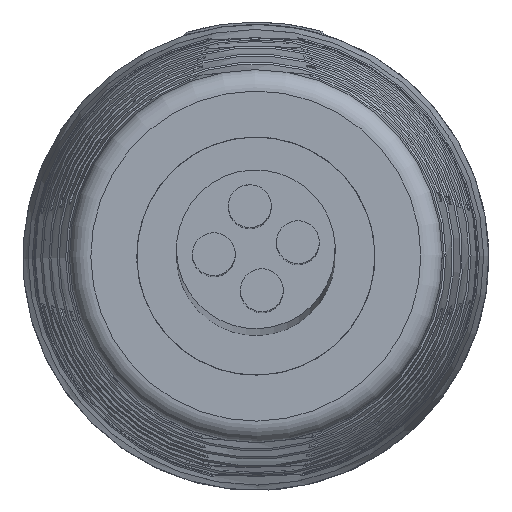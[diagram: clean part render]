
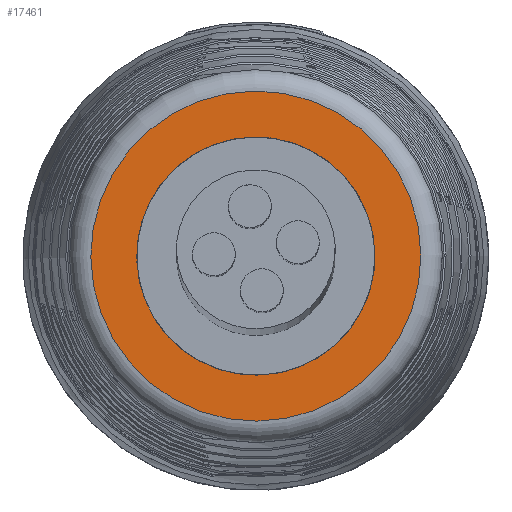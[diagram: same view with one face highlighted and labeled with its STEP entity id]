
A CAD part, top view. The second image highlights one B-rep face of the part: STEP entity #17461.
In plain terms, the highlighted planar face has unit normal (0, 0, 1).
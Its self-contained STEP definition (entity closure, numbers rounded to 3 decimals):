
#289 = DIRECTION ( 'NONE',  ( 0., 0., 1. ) ) ;
#1139 = PLANE ( 'NONE',  #23287 ) ;
#1694 = DIRECTION ( 'NONE',  ( 0., 0., 1. ) ) ;
#2215 = CARTESIAN_POINT ( 'NONE',  ( 2.379, -2.769, -176.855 ) ) ;
#2799 = CARTESIAN_POINT ( 'NONE',  ( 2.379, -2.769, -176.855 ) ) ;
#3430 = AXIS2_PLACEMENT_3D ( 'NONE', #18868, #1694, #15257 ) ;
#3675 = ORIENTED_EDGE ( 'NONE', *, *, #5370, .F. ) ;
#5370 = EDGE_CURVE ( 'NONE', #9736, #9736, #25112, .T. ) ;
#6698 = CIRCLE ( 'NONE', #14489, 7.692 ) ;
#7822 = DIRECTION ( 'NONE',  ( 1., 0.007, 0. ) ) ;
#8743 = EDGE_CURVE ( 'NONE', #24491, #24491, #6698, .T. ) ;
#9023 = EDGE_LOOP ( 'NONE', ( #3675 ) ) ;
#9736 = VERTEX_POINT ( 'NONE', #17562 ) ;
#14489 = AXIS2_PLACEMENT_3D ( 'NONE', #2215, #289, #7822 ) ;
#14752 = CARTESIAN_POINT ( 'NONE',  ( 10.071, -2.718, -176.855 ) ) ;
#14953 = DIRECTION ( 'NONE',  ( 0., 0., 1. ) ) ;
#15257 = DIRECTION ( 'NONE',  ( 1., 0.007, 0. ) ) ;
#15945 = EDGE_LOOP ( 'NONE', ( #16234 ) ) ;
#16234 = ORIENTED_EDGE ( 'NONE', *, *, #8743, .T. ) ;
#17461 = ADVANCED_FACE ( 'NONE', ( #18676, #24449 ), #1139, .T. ) ;
#17562 = CARTESIAN_POINT ( 'NONE',  ( 7.929, -2.732, -176.855 ) ) ;
#18676 = FACE_OUTER_BOUND ( 'NONE', #15945, .T. ) ;
#18868 = CARTESIAN_POINT ( 'NONE',  ( 2.379, -2.769, -176.855 ) ) ;
#23287 = AXIS2_PLACEMENT_3D ( 'NONE', #2799, #14953, #24826 ) ;
#24449 = FACE_BOUND ( 'NONE', #9023, .T. ) ;
#24491 = VERTEX_POINT ( 'NONE', #14752 ) ;
#24826 = DIRECTION ( 'NONE',  ( 1., 0.007, 0. ) ) ;
#25112 = CIRCLE ( 'NONE', #3430, 5.55 ) ;
